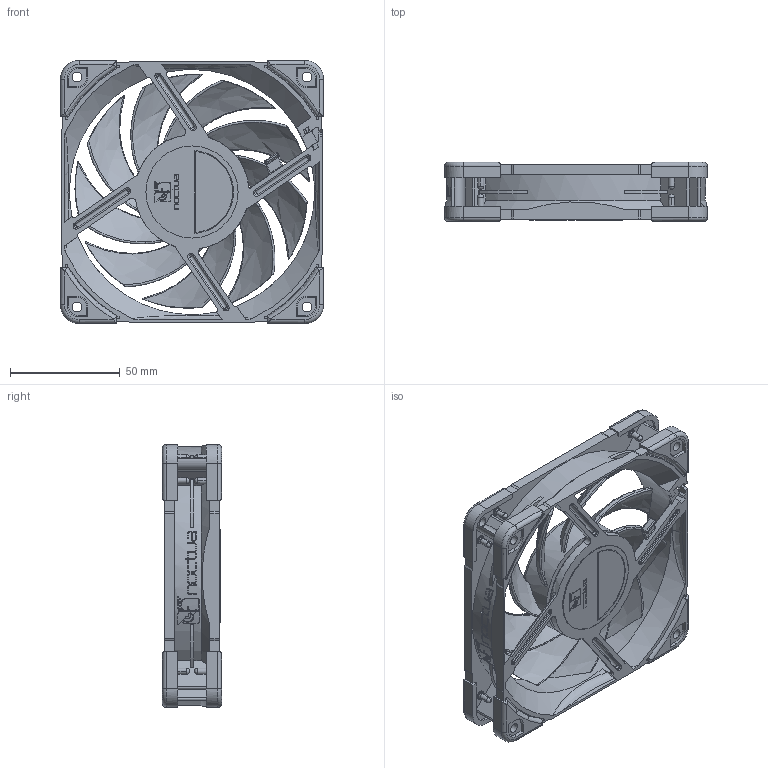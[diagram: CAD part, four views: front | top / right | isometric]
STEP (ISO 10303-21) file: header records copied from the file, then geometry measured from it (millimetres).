
FILE_DESCRIPTION(/* description */ ('140mm Desk Fan'),/* implementation_level */ '2;1');
FILE_NAME(/* name */ 'NF-A12x25_Public-CAD',/* time_stamp */ '2026-04-09T17:35:04+02:00',/* author */ ('Andreas'),/* organization */ ('Rascom'),/* preprocessor_version */ 'ST-DEVELOPER v18.102',/* originating_system */ 'Solid Edge',/* authorisation */ 'Unknown');
FILE_SCHEMA (('AUTOMOTIVE_DESIGN {1 0 10303 214 3 1 1}'));
Products named in the file (5): NF-A12x25_Public-CAD; NF-A12x25_Frame-Public; NF-A12x25_Impeller-Public; NA-AVP1; Fan-Label-D42mm
Assembly tree (11 placements, depth 2):
  NF-A12x25_Public-CAD
    NF-A12x25_Frame-Public
    NF-A12x25_Impeller-Public
    NA-AVP1  x8
    Fan-Label-D42mm
Bounding box: 120 x 27 x 120 mm (x, y, z)
Volume: 118790.1 mm3; surface area: 84834.2 mm2
Topology: 11 solids, 11 shells, 1527 faces, 4037 edges, 2626 vertices
Faces by surface type: plane 617, cylinder 542, bspline 170, torus 89, cone 65, sphere 44
Full cylindrical faces by diameter (mm): 2.97 x1, 3 x16, 4.3 x8, 5 x1, 8 x1, 20 x1, 42 x2, 52 x1, 112 x1
Entity records: 52432 total; most frequent: CARTESIAN_POINT 24046, ORIENTED_EDGE 5750, DIRECTION 4632, EDGE_CURVE 2875, VERTEX_POINT 1897, AXIS2_PLACEMENT_3D 1667, LINE 1298, VECTOR 1298
